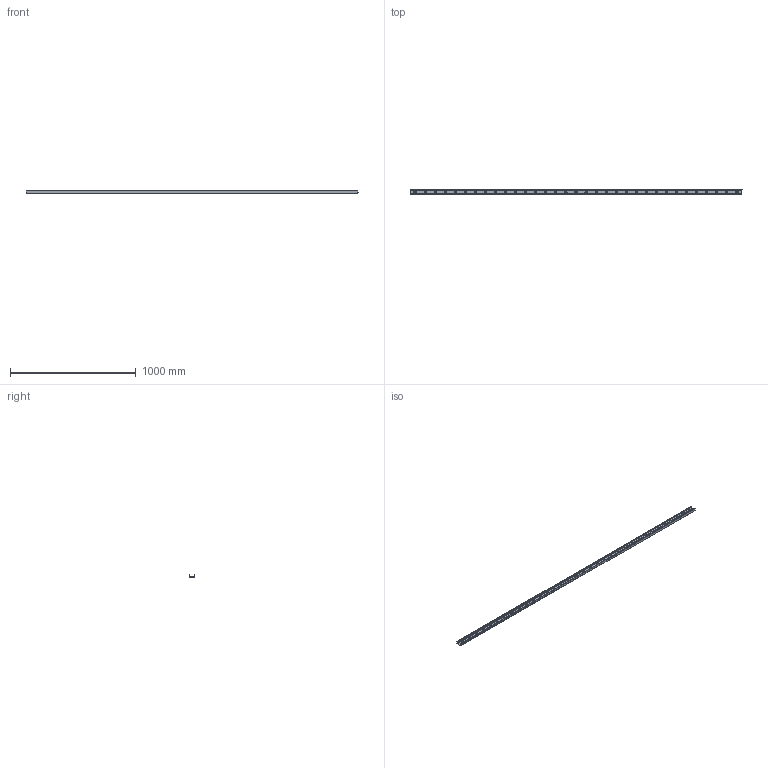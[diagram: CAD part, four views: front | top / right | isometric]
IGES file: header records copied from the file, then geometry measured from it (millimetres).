
Start section: SolidWorks IGES file using analytic representation for surfaces
Global section: file name: C:\Users\IanO\Desktop\43\L1943.ULV43_v2_20180121_IGES\L1943.ULV43-2640.igs; native system: SolidWorks 2017; preprocessor: SolidWorks 2017; author: IanO; date: 190121.090348; units: millimetre
Bounding box: 2640 x 43 x 21 mm (x, y, z)
Surface area: 409688.9 mm2 (no closed solid volume)
Topology: 0 solids, 0 shells, 158 faces, 2934 edges, 2934 vertices
Faces by surface type: revolution 145, bspline 13
